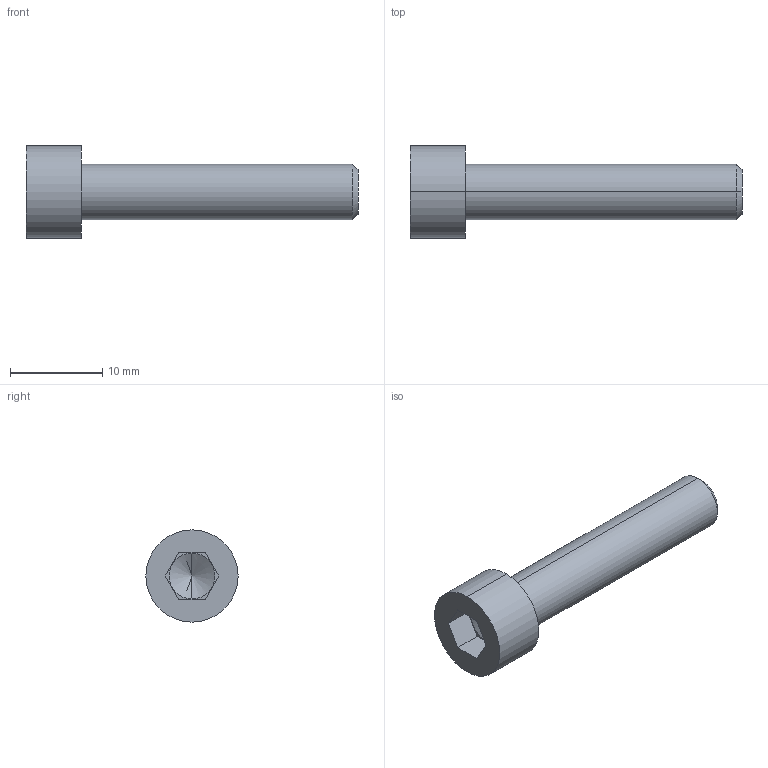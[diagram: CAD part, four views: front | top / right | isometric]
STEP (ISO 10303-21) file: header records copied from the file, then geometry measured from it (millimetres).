
FILE_DESCRIPTION (( 'STEP AP214' ), '1' );
FILE_NAME ('M6x30_DIN912.STEP', '2016-05-14T09:10:41', ( '' ), ( '' ), 'SwSTEP 2.0', 'SolidWorks 2014', '' );
FILE_SCHEMA (( 'AUTOMOTIVE_DESIGN' ));
Length unit declared in the file: millimetre
Products named in the file (1): M6x30_DIN912
Bounding box: 36 x 10 x 10 mm (x, y, z)
Volume: 1241.9 mm3; surface area: 958.8 mm2
Topology: 1 solids, 1 shells, 18 faces, 40 edges, 25 vertices
Faces by surface type: plane 10, cylinder 4, cone 4
Entity records: 718 total; most frequent: DIRECTION 88, CARTESIAN_POINT 82, ORIENTED_EDGE 76, EDGE_CURVE 38, AXIS2_PLACEMENT_3D 31, LINE 26, VECTOR 26, VERTEX_POINT 25
